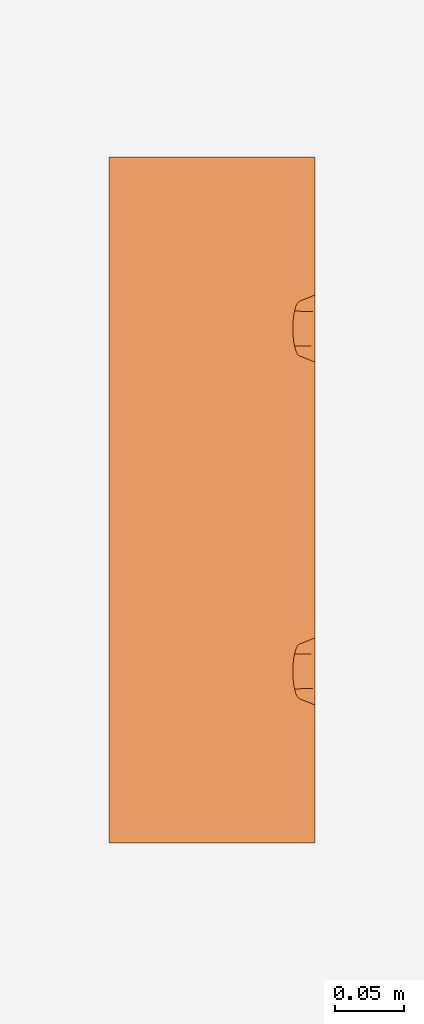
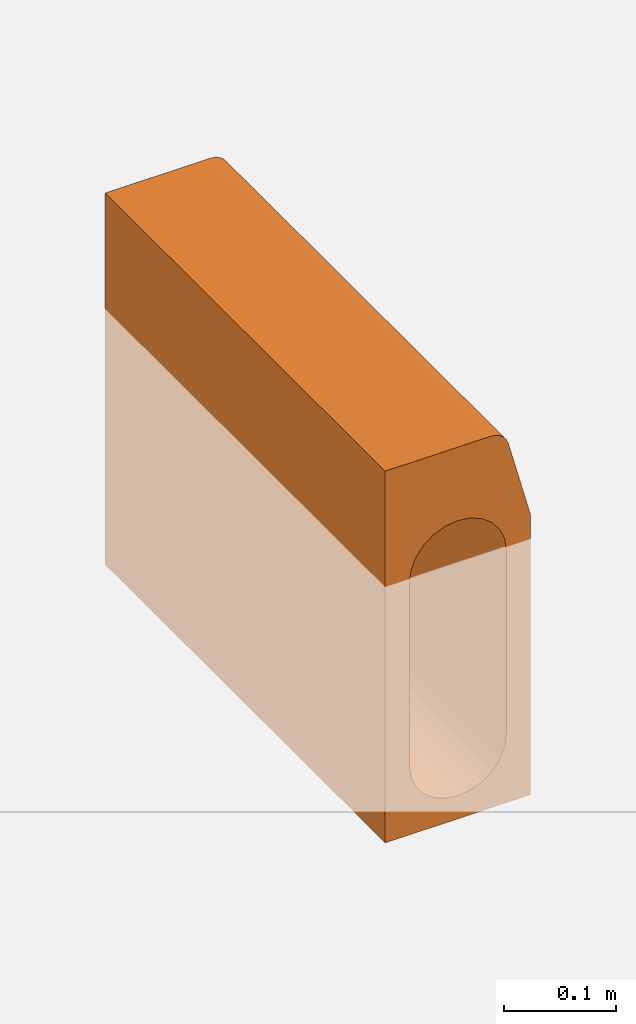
# One storey, part 2 of 2: 1 proxy.
"""IFC2X3 building model written with IfcOpenShell, lengths in millimetres."""

from ifc_helpers import new_model, entity, si_unit, converted_unit, direction, frame, origin, place, context, subcontext, project, spatial, faceted_brep, source, transform, mapped, material, element, save


model = new_model("IFC2X3")

# Units and contexts
model_context = context("Model", 3, precision=1e-06, world=origin(), true_north=direction((2.0, 6.12303176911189e-17, 1.0)))
context_of_model = context(None, 3, precision=1e-06, world=origin(), true_north=direction((2.0, 6.12303176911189e-17, 1.0)))
body_context = subcontext(model_context, "Body", "Model", "MODEL_VIEW")
ifc_project = project(units=[si_unit("LENGTHUNIT", "METRE", prefix="MILLI"), si_unit("AREAUNIT", "SQUARE_METRE", prefix="MILLI"), si_unit("VOLUMEUNIT", "CUBIC_METRE", prefix="MILLI"), converted_unit("PLANEANGLEUNIT", "DEGREE", entity("IfcRatioMeasure", 0.0174532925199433), si_unit("PLANEANGLEUNIT", "RADIAN"), dimensions=[0, 0, 0, 0, 0, 0, 0]), si_unit("TIMEUNIT", "SECOND")], contexts=[model_context, context_of_model])

# Site, building, storey
site_placement = place(None, origin())
site = spatial("IfcSite", under=ifc_project, at=site_placement, Name="Default", CompositionType="ELEMENT")
building_placement = place(site_placement, origin())
building = spatial("IfcBuilding", under=site, at=building_placement, CompositionType="ELEMENT")
storey_placement = place(building_placement, origin())
storey = spatial("IfcBuildingStorey", under=building, at=storey_placement, Name="Level 1", CompositionType="ELEMENT", Elevation=0.0)

# Proxy
ifc_material = material(Name="ACO Polymer Concrete.")
shared_shape = source(origin(), body_context, "Body", "Brep", [
    faceted_brep([(0.0, 144.749819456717, 68.1668944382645), (0.0, 143.288240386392, 73.1090776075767), (0.0, 140.612258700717, 77.5136785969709), (0.0, 132.396706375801, 83.5953299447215), (0.0, 106.572444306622, 72.7867476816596), (0.0, 105.197859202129, 67.8196656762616), (0.0, 136.899568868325, 81.0882166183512), (0.0, 127.402676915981, 84.8685375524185), (0.0, 112.820043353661, 80.8768211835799), (0.0, 147.275707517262, 45.0), (0.0, 102.716733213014, 45.0), (0.0, 122.249101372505, 84.8232940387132), (0.0, 117.278195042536, 83.4626037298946), (0.0, 109.170683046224, 77.237651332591), (-75.0, 500.0, -280.0), (-35.3553390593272, 500.0, -240.355339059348), (-25.0, 500.0, -248.301270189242), (-43.3012701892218, 500.0, -230.0), (-12.9409522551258, 500.0, -253.296291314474), (0.0, 500.0, -255.0), (-50.0, 500.0, -5.0), (-50.0, 500.0, -205.0), (-75.0, 500.0, 125.0), (-48.2962913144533, 500.0, -217.940952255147), (-48.2962913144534, 500.0, 7.94095225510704), (12.9409522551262, 500.0, -253.296291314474), (75.0, 500.0, -280.0), (25.0, 500.0, -248.301270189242), (35.3553390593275, 500.0, -240.355339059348), (43.301270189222, 500.0, -230.0), (75.0, 500.0, 25.0), (50.0, 500.0, -205.0), (50.0, 500.0, -5.0), (48.2962913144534, 500.0, -217.940952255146), (-35.3553390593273, 500.0, 30.3553390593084), (-43.3012701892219, 500.0, 20.0), (-25.0, 500.0, 38.3012701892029), (33.6258679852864, 500.0, 125.0), (-12.940952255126, 500.0, 43.2962913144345), (12.9409522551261, 500.0, 43.2962913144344), (6.47047612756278, 500.0, 44.1481456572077), (51.9784586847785, 500.0, 110.917561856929), (0.0, 500.0, 45.0), (25.0, 500.0, 38.3012701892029), (18.9704761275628, 500.0, 40.7987807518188), (43.301270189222, 500.0, 20.0), (39.3283046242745, 500.0, 25.1776695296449), (35.3553390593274, 500.0, 30.3553390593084), (49.1481456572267, 500.0, 1.47047612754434), (48.2962913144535, 500.0, 7.94095225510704), (45.7987807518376, 500.0, 13.9704761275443), (30.1776695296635, 500.0, 34.3283046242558), (43.1258679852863, 500.0, 122.454482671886), (47.0608968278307, 500.0, 119.435028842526), (50.0803506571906, 500.0, 115.499999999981), (38.5434298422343, 500.0, 124.352590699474), (-12.940952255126, 0.0, 43.2962913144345), (0.0, 0.0, 45.0), (33.6258679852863, 0.0, 125.0), (-75.0, 0.0, 125.0), (51.9784586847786, 0.0, 110.917561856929), (12.9409522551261, 0.0, 43.2962913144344), (18.9704761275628, 0.0, 40.7987807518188), (6.4704761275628, 0.0, 44.1481456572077), (-43.3012701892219, 0.0, 20.0), (-35.3553390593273, 0.0, 30.3553390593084), (-25.0, 0.0, 38.3012701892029), (-48.2962913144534, 0.0, 7.94095225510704), (43.1258679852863, 0.0, 122.454482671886), (38.5434298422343, 0.0, 124.352590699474), (47.0608968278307, 0.0, 119.435028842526), (50.0803506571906, 0.0, 115.499999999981), (35.3553390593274, 0.0, 30.3553390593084), (39.3283046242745, 0.0, 25.1776695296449), (75.0, 0.0, 25.0), (43.301270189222, 0.0, 20.0), (45.7987807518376, 0.0, 13.9704761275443), (48.2962913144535, 0.0, 7.94095225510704), (49.1481456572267, 0.0, 1.47047612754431), (50.0, 0.0, -5.0), (25.0, 0.0, 38.3012701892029), (30.1776695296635, 0.0, 34.3283046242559), (-75.0, 0.0, -280.0), (-50.0, 0.0, -205.0), (-50.0, 0.0, -5.0), (-48.2962913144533, 0.0, -217.940952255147), (-43.3012701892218, 0.0, -230.0), (-35.3553390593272, 0.0, -240.355339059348), (-25.0, 0.0, -248.301270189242), (-12.9409522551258, 0.0, -253.296291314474), (0.0, 0.0, -255.0), (75.0, 0.0, -280.0), (48.2962913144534, 0.0, -217.940952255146), (43.301270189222, 0.0, -230.0), (50.0, 0.0, -205.0), (12.9409522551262, 0.0, -253.296291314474), (35.3553390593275, 0.0, -240.355339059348), (25.0, 0.0, -248.301270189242), (75.0, 118.529523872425, -4.1347621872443), (75.0, 112.49999999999, -1.63725162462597), (75.0, 125.0, -4.98661653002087), (75.0, 107.322330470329, 2.335713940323), (75.0, 131.470476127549, -4.13476218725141), (75.0, 142.677669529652, 2.33571394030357), (75.0, 137.499999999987, -1.63725162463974), (75.0, 362.500000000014, -1.63725162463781), (75.0, 357.322330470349, 2.3357139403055), (75.0, 353.349364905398, 7.51338346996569), (75.0, 146.650635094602, 7.51338346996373), (75.0, 100.851854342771, 13.5429073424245), (75.0, 100.0, 20.013383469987), (75.0, 100.542182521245, 25.0), (75.0, 103.349364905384, 7.51338346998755), (75.0, 150.0, 20.0133834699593), (75.0, 149.148145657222, 13.542907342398), (75.0, 350.851854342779, 13.5429073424), (75.0, 350.0, 20.0133834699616), (75.0, 149.456308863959, 25.0), (75.0, 350.543691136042, 25.0), (75.0, 375.0, -4.98661653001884), (75.0, 368.529523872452, -4.13476218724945), (75.0, 387.500000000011, -1.63725162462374), (75.0, 381.470476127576, -4.13476218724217), (75.0, 392.677669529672, 2.33571394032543), (75.0, 399.14814565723, 13.5429073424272), (75.0, 396.650635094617, 7.51338346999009), (75.0, 399.457817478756, 25.0), (75.0, 400.0, 20.0133834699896), (33.6258679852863, 152.199914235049, 125.0), (33.6258679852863, 304.399764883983, 125.0), (50.0, 62.5000000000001, -5.0), (0.0, 393.427555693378, 72.7867476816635), (0.0, 382.721804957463, 83.4626037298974), (0.0, 367.603293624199, 83.5953299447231), (0.0, 394.802140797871, 67.8196656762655), (0.0, 390.829316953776, 77.2376513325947), (0.0, 387.179956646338, 80.8768211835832), (0.0, 377.750898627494, 84.8232940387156), (0.0, 372.597323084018, 84.8685375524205), (0.0, 352.724292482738, 45.0), (0.0, 397.283266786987, 45.0), (0.0, 355.250180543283, 68.1668944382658), (0.0, 356.711759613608, 73.1090776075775), (0.0, 363.100431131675, 81.0882166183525), (0.0, 359.387741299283, 77.5136785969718), (61.1886145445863, 108.659051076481, 76.544792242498), (62.3023811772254, 106.409338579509, 72.3881585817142), (63.5265051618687, 105.197859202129, 67.8196656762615), (59.0803445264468, 120.136224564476, 84.412963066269), (59.5313186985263, 115.71965081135, 82.7299045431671), (60.2474058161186, 111.821356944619, 80.057431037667), (58.9196688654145, 124.824425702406, 85.0126127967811), (60.1860306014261, 137.912487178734, 80.286486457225), (59.4883926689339, 133.967874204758, 82.890106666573), (59.0582649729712, 129.522432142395, 84.4953650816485), (63.4334654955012, 144.749819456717, 68.1668944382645), (62.2152293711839, 143.458318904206, 72.7134135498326), (61.1122177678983, 141.135976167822, 76.8299088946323), (43.2935404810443, 150.0, 20.0133834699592), (49.1107486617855, 144.515304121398, 4.38799051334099), (49.9982689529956, 120.531059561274, -4.5839450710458), (49.9359264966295, 116.353376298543, -3.01534546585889), (49.8739158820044, 137.816504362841, -1.45140667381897), (49.492332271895, 141.165904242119, 1.468291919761), (47.0190900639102, 148.682954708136, 12.0060333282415), (49.8735840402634, 112.175693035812, -1.44674586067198), (48.0649193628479, 146.599129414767, 8.19701192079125), (49.9361019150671, 133.636413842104, -3.01882036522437), (49.9982784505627, 124.993691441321, -4.58508956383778), (49.9982879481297, 129.456323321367, -4.58623405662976), (49.4908869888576, 108.824843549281, 1.47731002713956), (47.0182009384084, 101.316214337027, 12.0084914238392), (49.1081899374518, 105.473994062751, 4.4013659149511), (43.2935404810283, 100.0, 20.0133834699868), (48.0631954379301, 103.395104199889, 8.20492866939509), (45.1558707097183, 100.658107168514, 16.0109374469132), (43.2935404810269, 400.0, 20.0133834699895), (49.1107486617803, 394.515304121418, 4.38799051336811), (49.9982689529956, 370.531059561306, -4.5839450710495), (49.93592649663, 366.353376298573, -3.01534546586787), (49.8739158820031, 387.816504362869, -1.45140667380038), (49.4923322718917, 391.165904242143, 1.46829191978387), (47.0190900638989, 398.682954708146, 12.0060333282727), (49.8735840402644, 362.17569303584, -1.44674586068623), (45.1563152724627, 399.341477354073, 16.0097083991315), (48.0649193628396, 396.599129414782, 8.19701192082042), (49.9361019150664, 383.636413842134, -3.01882036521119), (49.9982784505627, 374.993691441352, -4.58508956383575), (49.9982879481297, 379.456323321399, -4.586234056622), (49.4908869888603, 358.824843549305, 1.47731002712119), (47.0182009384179, 351.316214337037, 12.0084914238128), (49.1081899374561, 355.473994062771, 4.40136591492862), (43.2935404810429, 350.0, 20.0133834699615), (61.1122177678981, 358.864023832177, 76.829908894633), (62.2152293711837, 356.541681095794, 72.7134135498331), (63.433465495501, 355.250180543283, 68.1668944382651), (59.0582649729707, 370.477567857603, 84.4953650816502), (59.4883926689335, 366.032125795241, 82.8901066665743), (60.1860306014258, 362.087512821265, 80.286486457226), (58.919668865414, 375.175574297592, 85.0126127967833), (60.2474058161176, 388.17864305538, 80.0574310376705), (59.5313186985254, 384.280349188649, 82.7299045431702), (59.0803445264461, 379.863775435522, 84.4129630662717), (63.5265051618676, 394.802140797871, 67.8196656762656), (62.3023811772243, 393.59066142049, 72.3881585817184), (61.1886145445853, 391.340948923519, 76.5447922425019), (51.9784586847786, 423.900064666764, 110.917561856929), (45.1923351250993, 383.807890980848, 121.073713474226), (48.6995814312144, 348.576324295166, 117.566467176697), (50.6694822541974, 104.875634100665, 114.397333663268), (48.6995813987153, 151.423670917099, 117.566467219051), (40.8968531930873, 348.576326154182, 123.553711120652), (37.0249115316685, 364.149902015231, 124.693488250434), (37.6444103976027, 238.971100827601, 124.570172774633), (50.5232021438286, 238.971095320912, 114.687928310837), (51.9784586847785, 304.399745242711, 110.917561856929), (50.8026538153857, 364.149900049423, 114.121454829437), (45.1923350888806, 116.192108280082, 121.073713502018), (47.9951537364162, 249.999998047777, 118.430753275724), (41.9140087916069, 250.0, 123.096979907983), (45.1923351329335, 249.999999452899, 121.073713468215), (33.6258679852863, 423.900074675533, 125.0), (51.9784586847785, 152.199872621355, 110.917561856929), (40.8968531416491, 151.423674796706, 123.553711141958), (37.3258574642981, 104.875635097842, 124.636257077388), (10.3925610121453, 147.394765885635, 43.9080226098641), (20.3311843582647, 147.746740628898, 40.6797870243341), (29.3817599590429, 148.31625780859, 35.4562996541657), (37.1489668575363, 149.078441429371, 28.4657177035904), (20.3311843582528, 102.247007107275, 40.6797870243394), (15.3618726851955, 102.422506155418, 42.2939048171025), (10.3925610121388, 102.59800520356, 43.9080226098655), (5.19628050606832, 102.657369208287, 44.4540113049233), (29.3817599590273, 101.679070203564, 35.4562996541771), (24.8564721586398, 101.96303865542, 38.0680433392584), (40.2212536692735, 100.45950073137, 24.2395505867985), (37.1489668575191, 100.91900146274, 28.4657177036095), (33.265363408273, 101.299035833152, 31.9610086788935), (5.19628050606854, 397.342630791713, 44.4540113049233), (10.3925610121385, 397.40199479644, 43.9080226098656), (15.3618726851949, 397.577493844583, 42.2939048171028), (20.3311843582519, 397.752992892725, 40.6797870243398), (24.8564721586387, 398.036961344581, 38.068043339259), (37.1489668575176, 399.080998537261, 28.4657177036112), (40.2212536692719, 399.540499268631, 24.2395505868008), (29.381759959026, 398.320929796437, 35.456299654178), (33.2653634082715, 398.700964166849, 31.9610086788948), (20.3311843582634, 352.253259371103, 40.6797870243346), (10.3925610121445, 352.605234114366, 43.9080226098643), (29.3817599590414, 351.683742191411, 35.4562996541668), (37.1489668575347, 350.92155857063, 28.4657177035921), (50.0, 187.5, -5.0), (50.0, 156.25, -5.0), (50.0, 250.0, -5.0), (50.0, 125.0, -5.0), (50.0, 437.5, -5.0), (50.0, 406.25, -5.0), (50.0, 375.0, -5.0), (50.0, 93.75, -5.0), (50.0, 343.75, -5.0), (50.0, 312.5, -5.0)], [[[0, 1, 2, 3]], [[0, 3, 4, 5]], [[3, 2, 6]], [[3, 7, 8, 4]], [[9, 0, 5, 10]], [[11, 12, 8, 7]], [[8, 13, 4]], [[14, 15, 16]], [[15, 14, 17]], [[16, 18, 14]], [[14, 18, 19]], [[20, 21, 14, 22]], [[23, 17, 14]], [[20, 22, 24]], [[21, 23, 14]], [[19, 25, 26, 14]], [[26, 27, 28]], [[27, 26, 25]], [[28, 29, 26]], [[30, 26, 31, 32]], [[33, 31, 26]], [[29, 33, 26]], [[34, 35, 22]], [[34, 22, 36]], [[22, 37, 38, 36]], [[39, 40, 37, 41]], [[37, 42, 38]], [[41, 43, 44, 39]], [[35, 24, 22]], [[30, 45, 46, 47]], [[30, 32, 48, 49]], [[30, 49, 50, 45]], [[41, 30, 47, 51]], [[37, 52, 53, 54]], [[54, 41, 37]], [[37, 55, 52]], [[56, 57, 58, 59]], [[60, 58, 61, 62]], [[58, 57, 63, 61]], [[64, 65, 59]], [[66, 56, 59]], [[65, 66, 59]], [[59, 67, 64]], [[68, 69, 58, 70]], [[71, 70, 58, 60]], [[72, 73, 74, 60]], [[74, 75, 76, 77]], [[74, 77, 78, 79]], [[60, 80, 81, 72]], [[82, 83, 84, 59]], [[83, 82, 85]], [[84, 67, 59]], [[86, 82, 87]], [[82, 86, 85]], [[88, 87, 82]], [[89, 88, 82]], [[90, 89, 82, 91]], [[92, 93, 91]], [[94, 91, 74, 79]], [[92, 91, 94]], [[95, 90, 91]], [[96, 97, 91]], [[91, 97, 95]], [[96, 91, 93]], [[82, 59, 22, 14]], [[26, 91, 82, 14]], [[91, 98, 99, 74]], [[98, 91, 100]], [[74, 99, 101]], [[102, 100, 91]], [[103, 104, 105, 106]], [[104, 102, 91, 26]], [[107, 108, 103, 106]], [[109, 110, 74]], [[111, 74, 110]], [[109, 74, 112]], [[113, 114, 115, 116]], [[117, 113, 116, 118]], [[114, 108, 107, 115]], [[74, 101, 112]], [[119, 120, 26]], [[26, 120, 105, 104]], [[121, 122, 26, 30]], [[26, 122, 119]], [[30, 123, 121]], [[124, 125, 30]], [[126, 127, 30]], [[30, 127, 124]], [[125, 123, 30]], [[59, 58, 128, 129]], [[37, 22, 59]], [[31, 94, 79, 130]], [[20, 84, 83, 21]], [[131, 132, 133, 134]], [[131, 135, 136, 132]], [[133, 132, 137, 138]], [[139, 140, 134, 141]], [[142, 141, 134, 133]], [[133, 143, 144, 142]], [[4, 145, 146]], [[5, 146, 147]], [[12, 148, 149]], [[8, 149, 150]], [[13, 150, 145]], [[5, 4, 146]], [[4, 13, 145]], [[150, 13, 8]], [[8, 12, 149]], [[12, 11, 148]], [[11, 151, 148]], [[6, 152, 153]], [[3, 153, 154]], [[0, 155, 156]], [[1, 156, 157]], [[2, 157, 152]], [[151, 7, 154]], [[7, 3, 154]], [[11, 7, 151]], [[3, 6, 153]], [[6, 2, 152]], [[157, 2, 1]], [[1, 0, 156]], [[114, 113, 158]], [[103, 108, 159]], [[98, 160, 161]], [[162, 104, 163]], [[114, 164, 108]], [[165, 99, 161]], [[164, 114, 158]], [[108, 164, 166, 159]], [[104, 162, 167]], [[103, 163, 104]], [[168, 160, 100, 169]], [[104, 167, 102]], [[98, 100, 160]], [[103, 159, 163]], [[170, 101, 99]], [[109, 112, 171]], [[172, 112, 101]], [[110, 109, 173]], [[170, 172, 101]], [[98, 161, 99]], [[100, 102, 169]], [[99, 165, 170]], [[112, 172, 174, 171]], [[109, 171, 175, 173]], [[167, 169, 102]], [[124, 127, 176]], [[123, 125, 177]], [[120, 178, 179]], [[180, 121, 181]], [[124, 182, 125]], [[183, 105, 179]], [[124, 176, 184, 182]], [[125, 182, 185, 177]], [[121, 180, 186]], [[123, 181, 121]], [[187, 178, 119, 188]], [[121, 186, 122]], [[120, 119, 178]], [[123, 177, 181]], [[189, 106, 105]], [[115, 107, 190]], [[191, 107, 106]], [[116, 115, 192]], [[189, 191, 106]], [[120, 179, 105]], [[119, 122, 188]], [[105, 183, 189]], [[190, 107, 191]], [[190, 192, 115]], [[186, 188, 122]], [[142, 193, 194]], [[141, 194, 195]], [[133, 196, 197]], [[143, 197, 198]], [[144, 198, 193]], [[141, 142, 194]], [[142, 144, 193]], [[198, 144, 143]], [[143, 133, 197]], [[133, 138, 196]], [[138, 199, 196]], [[136, 200, 201]], [[132, 201, 202]], [[134, 203, 204]], [[131, 204, 205]], [[135, 205, 200]], [[199, 137, 202]], [[137, 132, 202]], [[138, 137, 199]], [[132, 136, 201]], [[136, 135, 200]], [[205, 135, 131]], [[131, 134, 204]], [[74, 111, 147, 60]], [[146, 60, 147]], [[155, 117, 118, 195]], [[194, 156, 155, 195]], [[60, 146, 145]], [[150, 149, 60]], [[60, 148, 151]], [[148, 60, 149]], [[150, 60, 145]], [[152, 157, 198, 197]], [[154, 153, 197, 196]], [[60, 151, 154, 196]], [[152, 197, 153]], [[157, 156, 193, 198]], [[203, 126, 30, 41]], [[41, 204, 203]], [[204, 41, 205]], [[201, 200, 41]], [[199, 202, 41]], [[41, 202, 201]], [[196, 199, 41, 206]], [[200, 205, 41]], [[194, 193, 156]], [[53, 207, 208]], [[71, 209, 210]], [[211, 212, 213]], [[214, 215, 216]], [[54, 53, 208]], [[216, 54, 208]], [[217, 210, 218]], [[52, 55, 211]], [[53, 52, 207]], [[71, 210, 70]], [[219, 207, 211]], [[54, 206, 41]], [[220, 217, 218, 207]], [[55, 37, 221]], [[60, 222, 209]], [[68, 223, 69]], [[212, 221, 129]], [[217, 223, 68]], [[223, 224, 69]], [[68, 70, 217]], [[220, 207, 219, 217]], [[128, 224, 213]], [[222, 215, 214]], [[211, 207, 52]], [[69, 224, 58]], [[210, 217, 70]], [[54, 216, 206]], [[215, 206, 216]], [[208, 218, 214]], [[208, 214, 216]], [[214, 210, 209]], [[213, 212, 129]], [[221, 212, 55]], [[55, 212, 211]], [[128, 213, 129]], [[213, 223, 219]], [[213, 219, 211]], [[217, 219, 223]], [[60, 209, 71]], [[214, 209, 222]], [[214, 218, 210]], [[207, 218, 208]], [[213, 224, 223]], [[58, 224, 128]], [[225, 0, 9]], [[0, 225, 226]], [[226, 227, 155, 0]], [[228, 117, 155, 227]], [[158, 113, 117, 228]], [[5, 147, 229, 230]], [[5, 231, 232, 10]], [[147, 233, 234, 229]], [[111, 110, 173, 235]], [[147, 111, 236, 237]], [[134, 140, 238, 239]], [[134, 239, 240, 241]], [[241, 242, 203, 134]], [[126, 203, 243, 244]], [[203, 245, 246, 243]], [[176, 127, 126, 244]], [[141, 195, 247, 248]], [[248, 139, 141]], [[195, 249, 247]], [[118, 116, 192, 250]], [[195, 118, 250, 249]], [[65, 64, 35, 34]], [[66, 65, 34, 36]], [[56, 66, 36, 38]], [[67, 84, 20, 24]], [[64, 67, 24, 35]], [[73, 72, 236]], [[9, 10, 56, 38]], [[10, 57, 56]], [[61, 63, 231]], [[229, 80, 62]], [[237, 72, 81]], [[251, 252, 162, 253]], [[61, 230, 62]], [[61, 231, 230]], [[185, 182, 49, 177]], [[80, 229, 234, 233]], [[254, 160, 168, 169]], [[225, 9, 139, 248]], [[252, 254, 169]], [[232, 63, 57]], [[226, 225, 248, 247]], [[139, 9, 38, 140]], [[38, 42, 140]], [[47, 246, 51]], [[247, 249, 227, 226]], [[228, 227, 249, 250]], [[255, 256, 180, 32]], [[140, 42, 238]], [[40, 239, 238]], [[39, 44, 240]], [[257, 178, 187, 188]], [[44, 241, 240]], [[43, 245, 242, 241]], [[81, 80, 233]], [[81, 233, 237]], [[232, 231, 63]], [[73, 235, 75]], [[235, 173, 75]], [[75, 175, 76]], [[73, 236, 235]], [[50, 184, 45]], [[158, 228, 250, 192]], [[258, 165, 161, 160]], [[240, 239, 39]], [[174, 172, 77, 171]], [[165, 258, 130, 79]], [[190, 164, 158]], [[171, 77, 76]], [[10, 232, 57]], [[165, 79, 78]], [[78, 172, 170, 165]], [[173, 175, 75]], [[183, 162, 163, 159]], [[48, 180, 181, 177]], [[44, 43, 241]], [[254, 258, 160]], [[176, 244, 45]], [[252, 169, 167, 162]], [[191, 159, 166, 164]], [[256, 257, 188]], [[175, 171, 76]], [[259, 183, 179, 178]], [[158, 192, 190]], [[183, 259, 260, 253]], [[46, 243, 47]], [[47, 243, 246]], [[45, 244, 46]], [[182, 184, 50]], [[244, 243, 46]], [[43, 51, 245]], [[78, 77, 172]], [[159, 191, 189, 183]], [[245, 51, 246]], [[178, 257, 259]], [[183, 253, 162]], [[40, 39, 239]], [[184, 176, 45]], [[48, 32, 180]], [[229, 62, 230]], [[256, 188, 186, 180]], [[49, 48, 177]], [[50, 49, 182]], [[237, 236, 72]], [[191, 164, 190]], [[40, 238, 42]], [[96, 93, 29, 28]], [[95, 97, 27, 25]], [[97, 96, 28, 27]], [[90, 95, 25, 19]], [[31, 33, 92, 94]], [[93, 92, 33, 29]], [[88, 89, 18, 16]], [[87, 88, 16, 15]], [[85, 86, 17, 23]], [[86, 87, 15, 17]], [[83, 85, 23, 21]], [[19, 18, 89, 90]], [[37, 40, 42]], [[41, 51, 43]], [[60, 62, 80]], [[74, 73, 75]], [[59, 129, 221, 37]], [[31, 130, 258, 254]], [[31, 254, 252, 251]], [[31, 251, 253, 260]], [[31, 260, 259, 257]], [[31, 257, 256, 255]], [[31, 255, 32]], [[196, 206, 215, 222]], [[196, 222, 60]], [[5, 230, 231]], [[111, 235, 236]], [[147, 237, 233]], [[203, 242, 245]]]),
])
proxy_placement = place(storey_placement, frame((-14541.5994818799, -705.326112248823, 0.0)))
element("IfcBuildingElementProxy", 1, at=proxy_placement, inside=storey, material=ifc_material, Name="Civil-Drainage-Channel-ACO-KerbDrain-HB405:4231 - KDHB405 Channel - 500mm LG:4231 - KDHB405 Channel - 500mm LG", ObjectType="4231 - KDHB405 Channel - 500mm LG", CompositionType="ELEMENT", context=body_context, shape_type="MappedRepresentation", body=[
    mapped(shared_shape, transform((0.0, 0.0, 0.0), scale=1.0)),
])

save(model, "model.ifc")
